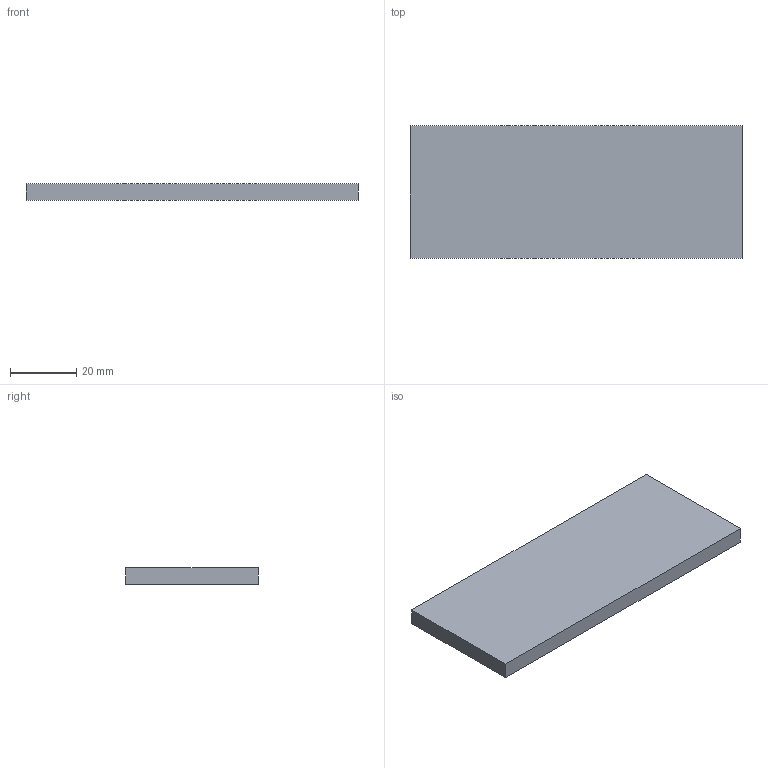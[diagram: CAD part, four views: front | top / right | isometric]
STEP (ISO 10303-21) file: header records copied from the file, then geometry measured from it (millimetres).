
FILE_DESCRIPTION(('Open CASCADE Model'),'2;1');
FILE_NAME('Open CASCADE Shape Model','2026-10-19T10:09:28',('Author'),( 'Open CASCADE'),'Open CASCADE STEP processor 8.0','Open CASCADE 8.0' ,'Unknown');
FILE_SCHEMA(('AUTOMOTIVE_DESIGN { 1 0 10303 214 1 1 1 1 }'));
Length unit declared in the file: millimetre
Products named in the file (1): HR4_PAD_100x40x5_P05_EJE_POSITIVO 195
Bounding box: 100 x 40 x 5 mm (x, y, z)
Volume: 20000 mm3; surface area: 9400 mm2
Topology: 1 solids, 1 shells, 6 faces, 12 edges, 8 vertices
Faces by surface type: plane 6
Entity records: 322 total; most frequent: CARTESIAN_POINT 51, DIRECTION 50, LINE 36, VECTOR 36, ORIENTED_EDGE 24, PCURVE 24, DEFINITIONAL_REPRESENTATION 24, EDGE_CURVE 12
